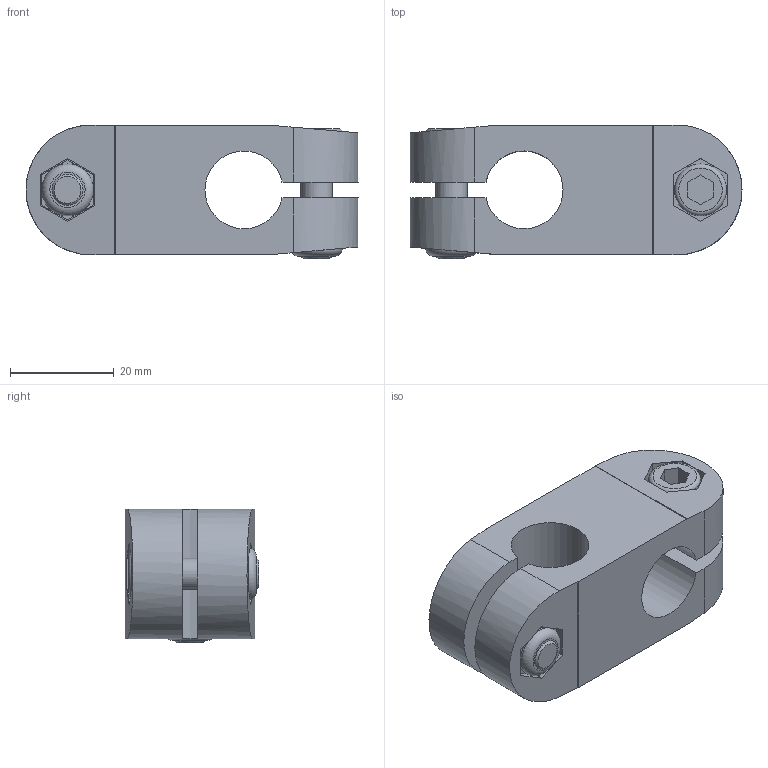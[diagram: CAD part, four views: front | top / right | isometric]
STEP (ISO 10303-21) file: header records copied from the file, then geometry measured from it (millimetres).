
FILE_DESCRIPTION( ( 'STEP AP203' ), '1' );
FILE_NAME( 'C:/Temp/Ganter_Step_05_03_2020/data/3_7/131/gn_131_1_al/Two-way connector clamp GN 131-B15-B15-2-SW.stp', '2020-03-12T14:16:06', ( 'License CC BY-ND 4.0' ), ( 'CADENAS' ), ' ', 'PARTsolutions', ' ' );
FILE_SCHEMA( ( 'CONFIG_CONTROL_DESIGN' ) );
Length unit declared in the file: millimetre
Products named in the file (1): _Two-way connector clamp GN 131-B15-B15-2-SW
Bounding box: 64 x 25.8 x 25.8 mm (x, y, z)
Volume: 24809.9 mm3; surface area: 11562.4 mm2
Topology: 1 solids, 1 shells, 116 faces, 278 edges, 180 vertices
Faces by surface type: plane 88, cylinder 22, torus 4, cone 2
Full cylindrical faces by diameter (mm): 6 x4, 6.5 x4, 10 x4
Entity records: 3260 total; most frequent: DIRECTION 550, CARTESIAN_POINT 549, ORIENTED_EDGE 512, EDGE_CURVE 256, LINE 196, VECTOR 196, AXIS2_PLACEMENT_3D 177, VERTEX_POINT 176
